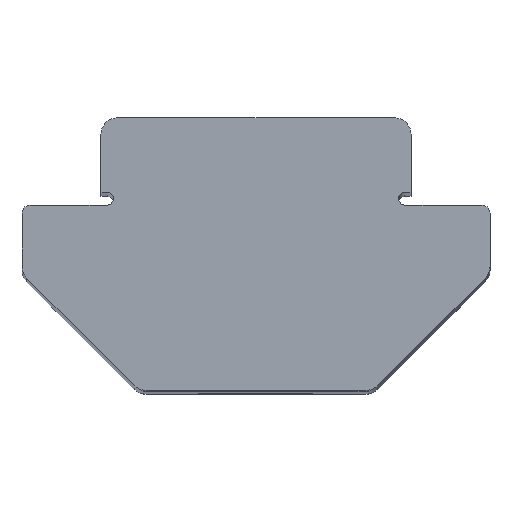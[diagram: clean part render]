
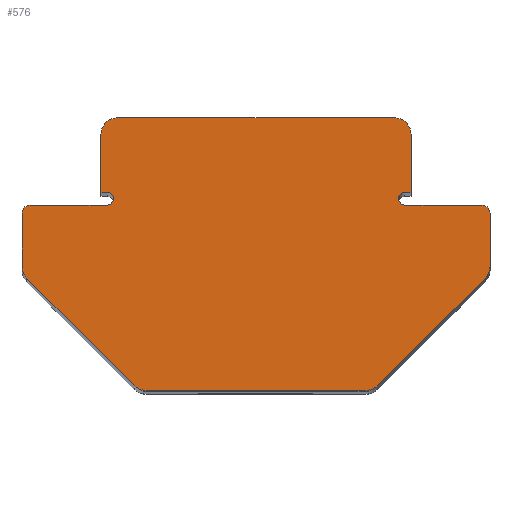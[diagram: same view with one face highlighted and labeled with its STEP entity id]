
A CAD part, top view. The second image highlights one B-rep face of the part: STEP entity #576.
In plain terms, the highlighted planar face has unit normal (0, 0, 1).
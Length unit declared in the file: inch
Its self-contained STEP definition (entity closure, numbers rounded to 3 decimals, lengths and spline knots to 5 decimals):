
#46=CARTESIAN_POINT('',(-0.179,0.0075,2.625));
#47=DIRECTION('',(0.,0.,-1.));
#48=DIRECTION('',(0.,1.,0.));
#49=AXIS2_PLACEMENT_3D('',#46,#47,#48);
#60=DIRECTION('',(1.,0.,0.));
#61=VECTOR('',#60,0.0075);
#62=CARTESIAN_POINT('',(-0.1865,0.015,2.625));
#63=LINE('',#62,#61);
#64=DIRECTION('',(0.,-1.,0.));
#65=VECTOR('',#64,0.07);
#66=CARTESIAN_POINT('',(-0.1865,0.085,2.625));
#67=LINE('',#66,#65);
#68=DIRECTION('',(-1.,0.,0.));
#69=VECTOR('',#68,0.333);
#70=CARTESIAN_POINT('',(0.1665,0.105,2.625));
#71=LINE('',#70,#69);
#72=DIRECTION('',(0.,1.,0.));
#73=VECTOR('',#72,0.07);
#74=CARTESIAN_POINT('',(0.1865,0.015,2.625));
#75=LINE('',#74,#73);
#76=DIRECTION('',(1.,0.,0.));
#77=VECTOR('',#76,0.0075);
#78=CARTESIAN_POINT('',(0.179,0.015,2.625));
#79=LINE('',#78,#77);
#80=DIRECTION('',(0.,1.,0.));
#81=VECTOR('',#80,0.06372);
#82=CARTESIAN_POINT('',(0.2815,-0.07372,2.625));
#83=LINE('',#82,#81);
#84=DIRECTION('',(0.707,0.707,0.));
#85=VECTOR('',#84,0.18284);
#86=CARTESIAN_POINT('',(0.14636,-0.21714,2.625));
#87=LINE('',#86,#85);
#88=DIRECTION('',(1.,0.,0.));
#89=VECTOR('',#88,0.26443);
#90=CARTESIAN_POINT('',(-0.13222,-0.223,2.625));
#91=LINE('',#90,#89);
#92=DIRECTION('',(0.707,-0.707,0.));
#93=VECTOR('',#92,0.18284);
#94=CARTESIAN_POINT('',(-0.27564,-0.08786,2.625));
#95=LINE('',#94,#93);
#96=DIRECTION('',(0.,-1.,0.));
#97=VECTOR('',#96,0.06372);
#98=CARTESIAN_POINT('',(-0.2815,-0.01,2.625));
#99=LINE('',#98,#97);
#100=DIRECTION('',(-1.,0.,0.));
#101=VECTOR('',#100,0.0925);
#102=CARTESIAN_POINT('',(-0.179,0.,2.625));
#103=LINE('',#102,#101);
#121=CARTESIAN_POINT('',(-0.2715,-0.01,2.625));
#122=DIRECTION('',(0.,0.,1.));
#123=DIRECTION('',(0.,1.,0.));
#124=AXIS2_PLACEMENT_3D('',#121,#122,#123);
#139=CARTESIAN_POINT('',(-0.2615,-0.07372,2.625));
#140=DIRECTION('',(0.,0.,1.));
#141=DIRECTION('',(-1.,0.,0.));
#142=AXIS2_PLACEMENT_3D('',#139,#140,#141);
#157=CARTESIAN_POINT('',(-0.13222,-0.203,2.625));
#158=DIRECTION('',(0.,0.,1.));
#159=DIRECTION('',(-0.707,-0.707,0.));
#160=AXIS2_PLACEMENT_3D('',#157,#158,#159);
#195=CARTESIAN_POINT('',(0.13222,-0.203,2.625));
#196=DIRECTION('',(0.,0.,1.));
#197=DIRECTION('',(0.,-1.,0.));
#198=AXIS2_PLACEMENT_3D('',#195,#196,#197);
#213=CARTESIAN_POINT('',(0.2615,-0.07372,2.625));
#214=DIRECTION('',(0.,0.,1.));
#215=DIRECTION('',(0.707,-0.707,0.));
#216=AXIS2_PLACEMENT_3D('',#213,#214,#215);
#231=CARTESIAN_POINT('',(0.2715,-0.01,2.625));
#232=DIRECTION('',(0.,0.,1.));
#233=DIRECTION('',(1.,0.,0.));
#234=AXIS2_PLACEMENT_3D('',#231,#232,#233);
#240=DIRECTION('',(-1.,0.,0.));
#241=VECTOR('',#240,0.0925);
#242=CARTESIAN_POINT('',(0.2715,0.,2.625));
#243=LINE('',#242,#241);
#257=CARTESIAN_POINT('',(0.179,0.0075,2.625));
#258=DIRECTION('',(0.,0.,-1.));
#259=DIRECTION('',(0.,-1.,0.));
#260=AXIS2_PLACEMENT_3D('',#257,#258,#259);
#279=CARTESIAN_POINT('',(0.1665,0.085,2.625));
#280=DIRECTION('',(0.,0.,1.));
#281=DIRECTION('',(1.,0.,0.));
#282=AXIS2_PLACEMENT_3D('',#279,#280,#281);
#317=CARTESIAN_POINT('',(-0.1665,0.085,2.625));
#318=DIRECTION('',(0.,0.,1.));
#319=DIRECTION('',(0.,1.,0.));
#320=AXIS2_PLACEMENT_3D('',#317,#318,#319);
#343=CARTESIAN_POINT('',(0.1865,0.015,2.625));
#345=VERTEX_POINT('',#343);
#347=CARTESIAN_POINT('',(-0.1865,0.015,2.625));
#349=VERTEX_POINT('',#347);
#366=CARTESIAN_POINT('',(-0.1865,0.085,2.625));
#368=VERTEX_POINT('',#366);
#372=CARTESIAN_POINT('',(-0.1665,0.105,2.625));
#373=VERTEX_POINT('',#372);
#374=CARTESIAN_POINT('',(0.1665,0.105,2.625));
#376=VERTEX_POINT('',#374);
#380=CARTESIAN_POINT('',(0.1865,0.085,2.625));
#381=VERTEX_POINT('',#380);
#382=CARTESIAN_POINT('',(0.2715,0.,2.625));
#384=VERTEX_POINT('',#382);
#388=CARTESIAN_POINT('',(0.2815,-0.01,2.625));
#389=VERTEX_POINT('',#388);
#390=CARTESIAN_POINT('',(-0.2815,-0.01,2.625));
#392=VERTEX_POINT('',#390);
#396=CARTESIAN_POINT('',(-0.2715,0.,2.625));
#397=VERTEX_POINT('',#396);
#399=CARTESIAN_POINT('',(0.179,0.015,2.625));
#401=VERTEX_POINT('',#399);
#403=CARTESIAN_POINT('',(0.179,0.,2.625));
#405=VERTEX_POINT('',#403);
#406=CARTESIAN_POINT('',(-0.179,0.015,2.625));
#408=VERTEX_POINT('',#406);
#410=CARTESIAN_POINT('',(-0.179,0.,2.625));
#412=VERTEX_POINT('',#410);
#414=CARTESIAN_POINT('',(-0.27564,-0.08786,2.625));
#416=VERTEX_POINT('',#414);
#420=CARTESIAN_POINT('',(-0.2815,-0.07372,2.625));
#421=VERTEX_POINT('',#420);
#422=CARTESIAN_POINT('',(-0.13222,-0.223,2.625));
#424=VERTEX_POINT('',#422);
#428=CARTESIAN_POINT('',(-0.14636,-0.21714,2.625));
#429=VERTEX_POINT('',#428);
#430=CARTESIAN_POINT('',(0.14636,-0.21714,2.625));
#432=VERTEX_POINT('',#430);
#436=CARTESIAN_POINT('',(0.13222,-0.223,2.625));
#437=VERTEX_POINT('',#436);
#438=CARTESIAN_POINT('',(0.2815,-0.07372,2.625));
#440=VERTEX_POINT('',#438);
#444=CARTESIAN_POINT('',(0.27564,-0.08786,2.625));
#445=VERTEX_POINT('',#444);
#527=CARTESIAN_POINT('',(0.,0.,2.625));
#528=DIRECTION('',(0.,0.,1.));
#529=DIRECTION('',(1.,0.,0.));
#530=AXIS2_PLACEMENT_3D('',#527,#528,#529);
#531=PLANE('',#530);
#533=ORIENTED_EDGE('',*,*,#532,.F.);
#534=ORIENTED_EDGE('',*,*,#519,.F.);
#535=ORIENTED_EDGE('',*,*,#508,.F.);
#537=ORIENTED_EDGE('',*,*,#536,.F.);
#539=ORIENTED_EDGE('',*,*,#538,.F.);
#541=ORIENTED_EDGE('',*,*,#540,.F.);
#543=ORIENTED_EDGE('',*,*,#542,.F.);
#545=ORIENTED_EDGE('',*,*,#544,.F.);
#547=ORIENTED_EDGE('',*,*,#546,.F.);
#549=ORIENTED_EDGE('',*,*,#548,.F.);
#551=ORIENTED_EDGE('',*,*,#550,.F.);
#553=ORIENTED_EDGE('',*,*,#552,.F.);
#555=ORIENTED_EDGE('',*,*,#554,.F.);
#557=ORIENTED_EDGE('',*,*,#556,.F.);
#559=ORIENTED_EDGE('',*,*,#558,.F.);
#561=ORIENTED_EDGE('',*,*,#560,.F.);
#563=ORIENTED_EDGE('',*,*,#562,.F.);
#565=ORIENTED_EDGE('',*,*,#564,.F.);
#567=ORIENTED_EDGE('',*,*,#566,.F.);
#569=ORIENTED_EDGE('',*,*,#568,.F.);
#571=ORIENTED_EDGE('',*,*,#570,.F.);
#573=ORIENTED_EDGE('',*,*,#572,.F.);
#574=EDGE_LOOP('',(#533,#534,#535,#537,#539,#541,#543,#545,#547,#549,#551,#553,
#555,#557,#559,#561,#563,#565,#567,#569,#571,#573));
#575=FACE_OUTER_BOUND('',#574,.F.);
#50=CIRCLE('',#49,0.0075);
#125=CIRCLE('',#124,0.01);
#143=CIRCLE('',#142,0.02);
#161=CIRCLE('',#160,0.02);
#199=CIRCLE('',#198,0.02);
#217=CIRCLE('',#216,0.02);
#235=CIRCLE('',#234,0.01);
#261=CIRCLE('',#260,0.0075);
#283=CIRCLE('',#282,0.02);
#321=CIRCLE('',#320,0.02);
#508=EDGE_CURVE('',#349,#408,#63,.T.);
#519=EDGE_CURVE('',#408,#412,#50,.T.);
#532=EDGE_CURVE('',#412,#397,#103,.T.);
#536=EDGE_CURVE('',#368,#349,#67,.T.);
#538=EDGE_CURVE('',#373,#368,#321,.T.);
#540=EDGE_CURVE('',#376,#373,#71,.T.);
#542=EDGE_CURVE('',#381,#376,#283,.T.);
#544=EDGE_CURVE('',#345,#381,#75,.T.);
#546=EDGE_CURVE('',#401,#345,#79,.T.);
#548=EDGE_CURVE('',#405,#401,#261,.T.);
#550=EDGE_CURVE('',#384,#405,#243,.T.);
#552=EDGE_CURVE('',#389,#384,#235,.T.);
#554=EDGE_CURVE('',#440,#389,#83,.T.);
#556=EDGE_CURVE('',#445,#440,#217,.T.);
#558=EDGE_CURVE('',#432,#445,#87,.T.);
#560=EDGE_CURVE('',#437,#432,#199,.T.);
#562=EDGE_CURVE('',#424,#437,#91,.T.);
#564=EDGE_CURVE('',#429,#424,#161,.T.);
#566=EDGE_CURVE('',#416,#429,#95,.T.);
#568=EDGE_CURVE('',#421,#416,#143,.T.);
#570=EDGE_CURVE('',#392,#421,#99,.T.);
#572=EDGE_CURVE('',#397,#392,#125,.T.);
#576=ADVANCED_FACE('',(#575),#531,.T.);
